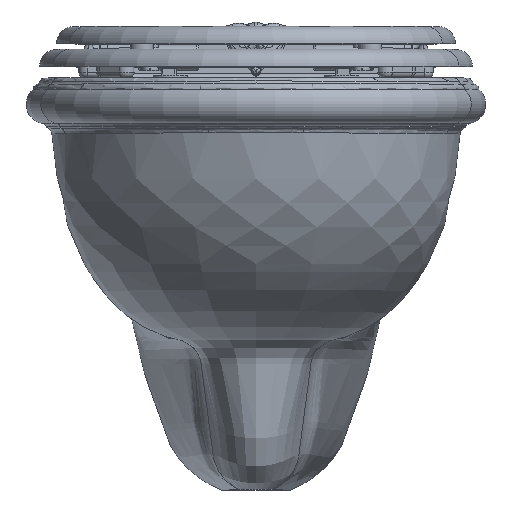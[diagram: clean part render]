
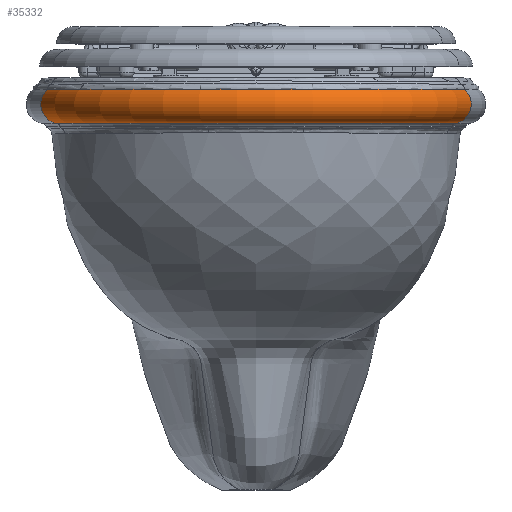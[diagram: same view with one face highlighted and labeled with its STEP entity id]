
A CAD part, top view. The second image highlights one B-rep face of the part: STEP entity #35332.
In plain terms, the highlighted toroidal (fillet/blend) face has major radius 179.028 mm and minor radius 17.006 mm.
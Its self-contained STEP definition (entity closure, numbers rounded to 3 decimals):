
#989 = EDGE_CURVE ( 'NONE', #16786, #29774, #2617, .T. ) ;
#1857 = CARTESIAN_POINT ( 'NONE',  ( -174.921, -39.738, 405.271 ) ) ;
#2617 = CIRCLE ( 'NONE', #9506, 17.006 ) ;
#2995 = CIRCLE ( 'NONE', #36804, 190. ) ;
#3780 = ORIENTED_EDGE ( 'NONE', *, *, #37278, .T. ) ;
#4687 = DIRECTION ( 'NONE',  ( -0.961, 0., -0.276 ) ) ;
#5624 = DIRECTION ( 'NONE',  ( 0., -1., 0. ) ) ;
#6157 = CARTESIAN_POINT ( 'NONE',  ( -182.608, -10., 407.48 ) ) ;
#6246 = CIRCLE ( 'NONE', #20205, 17.006 ) ;
#6646 = DIRECTION ( 'NONE',  ( 0.276, 0., -0.961 ) ) ;
#6787 = CARTESIAN_POINT ( 'NONE',  ( 172.064, -22.994, 404.45 ) ) ;
#7415 = DIRECTION ( 'NONE',  ( 0., 0., -1. ) ) ;
#7748 = ORIENTED_EDGE ( 'NONE', *, *, #989, .F. ) ;
#9506 = AXIS2_PLACEMENT_3D ( 'NONE', #6787, #6646, #4687 ) ;
#11695 = DIRECTION ( 'NONE',  ( 0., 1., 0. ) ) ;
#13702 = CARTESIAN_POINT ( 'NONE',  ( -172.064, -22.994, 404.45 ) ) ;
#13807 = EDGE_LOOP ( 'NONE', ( #39842, #3780, #7748, #40577 ) ) ;
#16786 = VERTEX_POINT ( 'NONE', #21587 ) ;
#16929 = DIRECTION ( 'NONE',  ( 0.961, 0., -0.276 ) ) ;
#20205 = AXIS2_PLACEMENT_3D ( 'NONE', #13702, #36095, #16929 ) ;
#21587 = CARTESIAN_POINT ( 'NONE',  ( 182.608, -10., 407.48 ) ) ;
#22148 = EDGE_CURVE ( 'NONE', #38014, #28745, #6246, .T. ) ;
#24814 = CARTESIAN_POINT ( 'NONE',  ( 0., -10., 355. ) ) ;
#25207 = AXIS2_PLACEMENT_3D ( 'NONE', #30847, #11695, #34054 ) ;
#25516 = TOROIDAL_SURFACE ( 'NONE', #29729, 179.028, 17.006 ) ;
#26581 = CARTESIAN_POINT ( 'NONE',  ( 0., -22.994, 355. ) ) ;
#28014 = DIRECTION ( 'NONE',  ( 0.961, 0., 0.276 ) ) ;
#28745 = VERTEX_POINT ( 'NONE', #1857 ) ;
#29729 = AXIS2_PLACEMENT_3D ( 'NONE', #26581, #35948, #7415 ) ;
#29774 = VERTEX_POINT ( 'NONE', #33973 ) ;
#30847 = CARTESIAN_POINT ( 'NONE',  ( 0., -39.738, 355. ) ) ;
#33973 = CARTESIAN_POINT ( 'NONE',  ( 174.921, -39.738, 405.271 ) ) ;
#33991 = CIRCLE ( 'NONE', #25207, 182.001 ) ;
#34029 = FACE_OUTER_BOUND ( 'NONE', #13807, .T. ) ;
#34054 = DIRECTION ( 'NONE',  ( 0., 0., 1. ) ) ;
#35007 = EDGE_CURVE ( 'NONE', #16786, #38014, #2995, .T. ) ;
#35332 = ADVANCED_FACE ( 'NONE', ( #34029 ), #25516, .T. ) ;
#35948 = DIRECTION ( 'NONE',  ( 0., -1., 0. ) ) ;
#36095 = DIRECTION ( 'NONE',  ( 0.276, 0., 0.961 ) ) ;
#36804 = AXIS2_PLACEMENT_3D ( 'NONE', #24814, #5624, #28014 ) ;
#37278 = EDGE_CURVE ( 'NONE', #28745, #29774, #33991, .T. ) ;
#38014 = VERTEX_POINT ( 'NONE', #6157 ) ;
#39842 = ORIENTED_EDGE ( 'NONE', *, *, #22148, .T. ) ;
#40577 = ORIENTED_EDGE ( 'NONE', *, *, #35007, .T. ) ;
